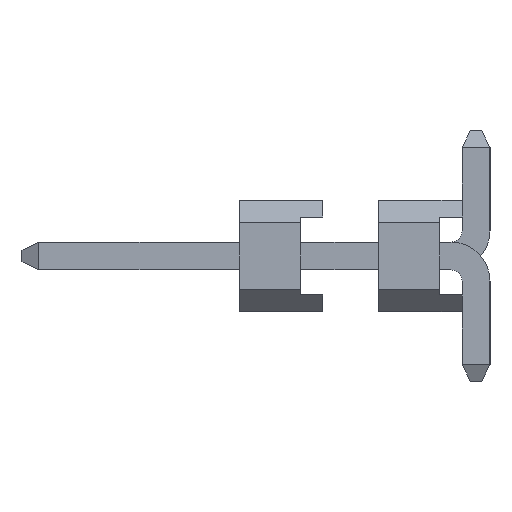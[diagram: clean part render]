
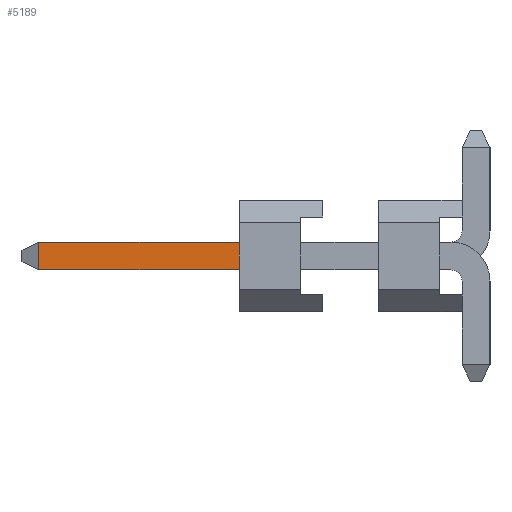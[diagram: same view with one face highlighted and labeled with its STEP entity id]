
A CAD part, left-side view. The second image highlights one B-rep face of the part: STEP entity #5189.
In plain terms, the highlighted planar face has unit normal (-1, 0, 0).
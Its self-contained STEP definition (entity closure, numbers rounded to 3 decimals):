
#4145=FACE_OUTER_BOUND('',#7553,.T.);
#5189=ADVANCED_FACE('',(#4145),#6307,.T.);
#6307=PLANE('',#24834);
#7553=EDGE_LOOP('',(#8942,#8943,#8944,#8945));
#8942=ORIENTED_EDGE('',*,*,#16437,.T.);
#8943=ORIENTED_EDGE('',*,*,#16438,.T.);
#8944=ORIENTED_EDGE('',*,*,#16439,.T.);
#8945=ORIENTED_EDGE('',*,*,#16318,.T.);
#14478=VERTEX_POINT('',#31216);
#14479=VERTEX_POINT('',#31217);
#14556=VERTEX_POINT('',#31455);
#14557=VERTEX_POINT('',#31457);
#16318=EDGE_CURVE('',#14478,#14479,#19198,.T.);
#16437=EDGE_CURVE('',#14479,#14556,#19313,.T.);
#16438=EDGE_CURVE('',#14556,#14557,#19314,.T.);
#16439=EDGE_CURVE('',#14557,#14478,#19315,.T.);
#19198=LINE('',#31215,#21998);
#19313=LINE('',#31454,#22113);
#19314=LINE('',#31456,#22114);
#19315=LINE('',#31458,#22115);
#21998=VECTOR('',#26003,1.);
#22113=VECTOR('',#26210,1.);
#22114=VECTOR('',#26211,1.);
#22115=VECTOR('',#26212,1.);
#24834=AXIS2_PLACEMENT_3D('',#31459,#26213,#26214);
#26003=DIRECTION('',(0.,0.,1.));
#26210=DIRECTION('',(0.,1.,0.));
#26211=DIRECTION('',(0.,0.,-1.));
#26212=DIRECTION('',(0.,-1.,0.));
#26213=DIRECTION('',(-1.,0.,0.));
#26214=DIRECTION('',(0.,1.,0.));
#31215=CARTESIAN_POINT('',(-3.202,4.024,0.5));
#31216=CARTESIAN_POINT('',(-3.202,4.024,0.7));
#31217=CARTESIAN_POINT('',(-3.202,4.024,1.2));
#31454=CARTESIAN_POINT('',(-3.202,5.824,1.2));
#31455=CARTESIAN_POINT('',(-3.202,7.624,1.2));
#31456=CARTESIAN_POINT('',(-3.202,7.624,0.7));
#31457=CARTESIAN_POINT('',(-3.202,7.624,0.7));
#31458=CARTESIAN_POINT('',(-3.202,-1.776,0.7));
#31459=CARTESIAN_POINT('',(-3.202,-1.776,0.5));
